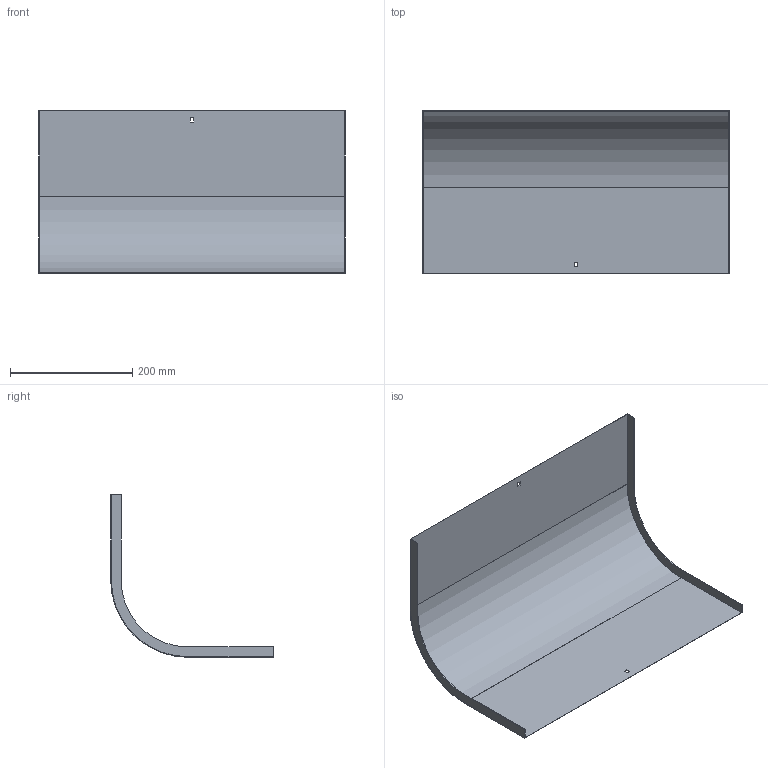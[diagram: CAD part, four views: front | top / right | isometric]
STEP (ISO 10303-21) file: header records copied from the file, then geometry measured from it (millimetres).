
FILE_DESCRIPTION (( 'STEP AP214' ), '1' );
FILE_NAME ('OD9_501.step', '2025-07-16T09:13:38', ( '' ), ( '' ), 'SwSTEP 2.0', 'SolidWorks 2023', '' );
FILE_SCHEMA (( 'AUTOMOTIVE_DESIGN' ));
Length unit declared in the file: millimetre
Products named in the file (1): OD9_501
Bounding box: 502 x 266 x 266 mm (x, y, z)
Volume: 254278.8 mm3; surface area: 510581.6 mm2
Topology: 1 solids, 1 shells, 26 faces, 72 edges, 48 vertices
Faces by surface type: plane 22, cylinder 4
Entity records: 855 total; most frequent: CARTESIAN_POINT 147, ORIENTED_EDGE 144, DIRECTION 134, EDGE_CURVE 72, LINE 64, VECTOR 64, VERTEX_POINT 48, AXIS2_PLACEMENT_3D 35
